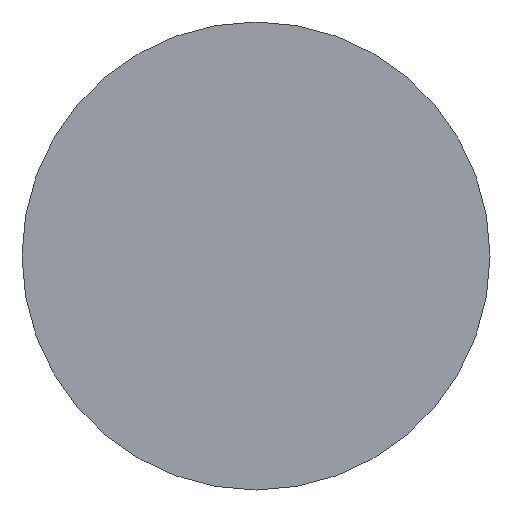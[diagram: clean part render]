
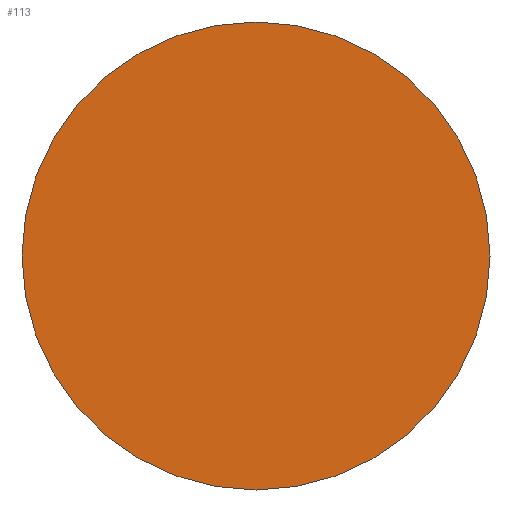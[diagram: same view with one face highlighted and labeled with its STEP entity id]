
A CAD part, front view. The second image highlights one B-rep face of the part: STEP entity #113.
In plain terms, the highlighted planar face has unit normal (0, -1, 0).
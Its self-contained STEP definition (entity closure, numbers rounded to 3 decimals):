
#22 = VERTEX_POINT('',#23);
#23 = CARTESIAN_POINT('',(-36.,50.,-12.));
#32 = CYLINDRICAL_SURFACE('',#33,8.);
#33 = AXIS2_PLACEMENT_3D('',#34,#35,#36);
#34 = CARTESIAN_POINT('',(-28.,50.,-12.));
#35 = DIRECTION('',(0.,-1.,0.));
#36 = DIRECTION('',(-1.,-0.,-0.));
#83 = EDGE_CURVE('',#22,#22,#84,.T.);
#84 = SURFACE_CURVE('',#85,(#90,#97),.PCURVE_S1.);
#85 = CIRCLE('',#86,8.);
#86 = AXIS2_PLACEMENT_3D('',#87,#88,#89);
#87 = CARTESIAN_POINT('',(-28.,50.,-12.));
#88 = DIRECTION('',(0.,-1.,0.));
#89 = DIRECTION('',(-1.,-0.,-0.));
#90 = PCURVE('',#32,#91);
#91 = DEFINITIONAL_REPRESENTATION('',(#92),#96);
#92 = LINE('',#93,#94);
#93 = CARTESIAN_POINT('',(0.,0.));
#94 = VECTOR('',#95,1.);
#95 = DIRECTION('',(1.,0.));
#96 = ( GEOMETRIC_REPRESENTATION_CONTEXT(2) 
PARAMETRIC_REPRESENTATION_CONTEXT() REPRESENTATION_CONTEXT('2D SPACE',''
  ) );
#97 = PCURVE('',#98,#103);
#98 = PLANE('',#99);
#99 = AXIS2_PLACEMENT_3D('',#100,#101,#102);
#100 = CARTESIAN_POINT('',(-28.,50.,-12.));
#101 = DIRECTION('',(-0.,1.,0.));
#102 = DIRECTION('',(1.,0.,0.));
#103 = DEFINITIONAL_REPRESENTATION('',(#104),#112);
#104 = ( BOUNDED_CURVE() B_SPLINE_CURVE(2,(#105,#106,#107,#108,#109,#110
,#111),.UNSPECIFIED.,.T.,.F.) B_SPLINE_CURVE_WITH_KNOTS((1,2,2,2,2,1),(
    -2.094,0.,2.094,4.189,6.283,
8.378),.UNSPECIFIED.) CURVE() GEOMETRIC_REPRESENTATION_ITEM() 
RATIONAL_B_SPLINE_CURVE((1.,0.5,1.,0.5,1.,0.5,1.)) REPRESENTATION_ITEM(
  '') );
#105 = CARTESIAN_POINT('',(-8.,0.));
#106 = CARTESIAN_POINT('',(-8.,13.856));
#107 = CARTESIAN_POINT('',(4.,6.928));
#108 = CARTESIAN_POINT('',(16.,0.));
#109 = CARTESIAN_POINT('',(4.,-6.928));
#110 = CARTESIAN_POINT('',(-8.,-13.856));
#111 = CARTESIAN_POINT('',(-8.,0.));
#112 = ( GEOMETRIC_REPRESENTATION_CONTEXT(2) 
PARAMETRIC_REPRESENTATION_CONTEXT() REPRESENTATION_CONTEXT('2D SPACE',''
  ) );
#113 = ADVANCED_FACE('',(#114),#98,.F.);
#114 = FACE_BOUND('',#115,.T.);
#115 = EDGE_LOOP('',(#116));
#116 = ORIENTED_EDGE('',*,*,#83,.T.);
